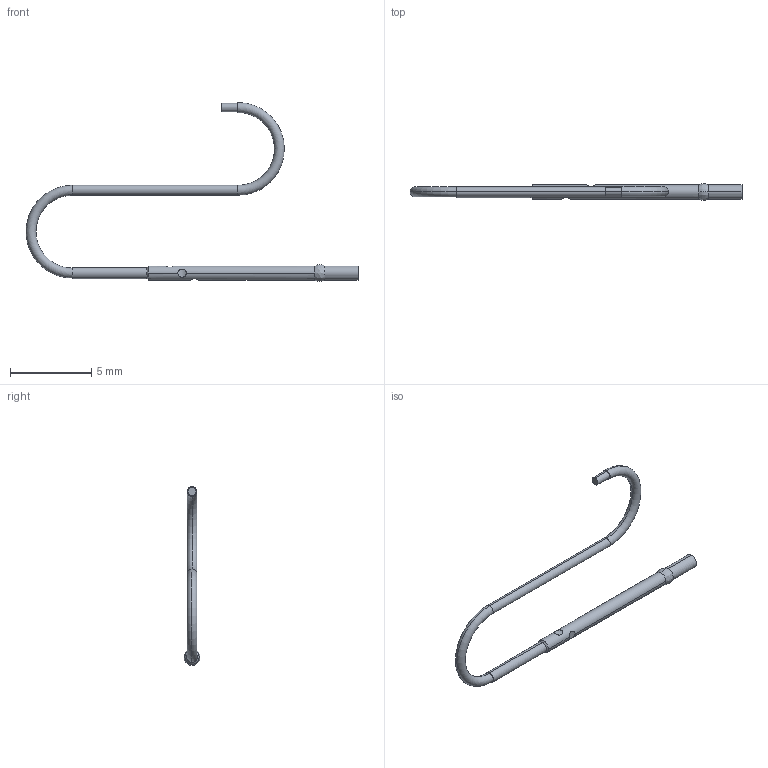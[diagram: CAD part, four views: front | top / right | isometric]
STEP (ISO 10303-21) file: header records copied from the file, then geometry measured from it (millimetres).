
FILE_DESCRIPTION (( 'STEP AP214' ), '1' );
FILE_NAME ('RA1C-W450.STEP', '2021-08-25T16:04:30', ( '' ), ( '' ), 'SwSTEP 2.0', 'SolidWorks 2021', '' );
FILE_SCHEMA (( 'AUTOMOTIVE_DESIGN' ));
Length unit declared in the file: inch
Products named in the file (1): RA1C-W450
Bounding box: 20.37 x 1.01 x 10.98 mm (x, y, z)
Volume: 11 mm3; surface area: 134.8 mm2
Topology: 2 solids, 2 shells, 43 faces, 92 edges, 58 vertices
Faces by surface type: cylinder 26, plane 5, cone 4, bspline 4, torus 4
Entity records: 1938 total; most frequent: CARTESIAN_POINT 412, DIRECTION 194, ORIENTED_EDGE 184, EDGE_CURVE 92, AXIS2_PLACEMENT_3D 84, VERTEX_POINT 58, EDGE_LOOP 50, UNCERTAINTY_MEASURE_WITH_UNIT 47
